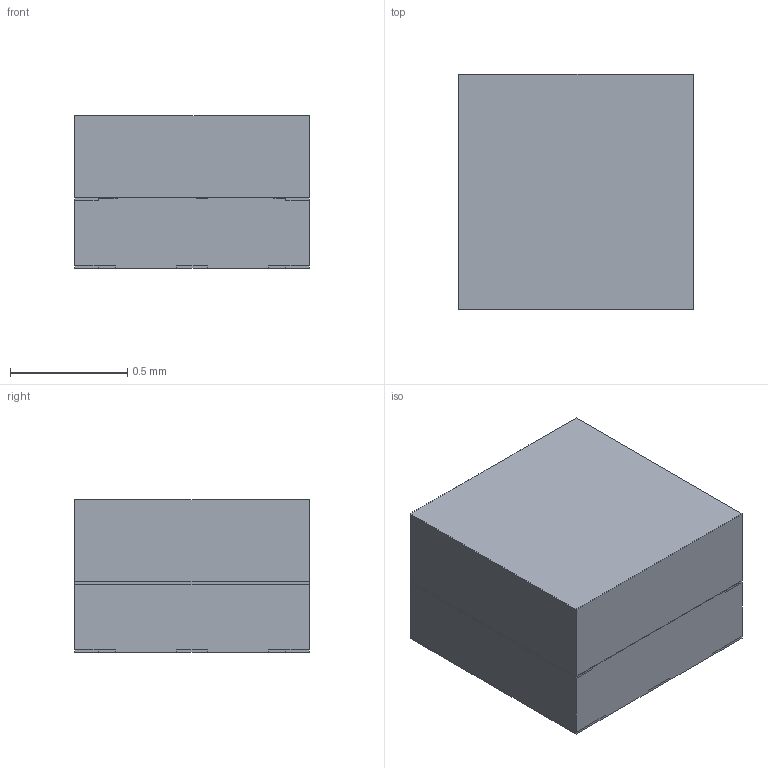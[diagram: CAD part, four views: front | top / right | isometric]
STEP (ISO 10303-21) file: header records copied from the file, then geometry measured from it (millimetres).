
FILE_DESCRIPTION(('FreeCAD Model'),'2;1');
FILE_NAME('Open CASCADE Shape Model','2026-04-02T15:24:25',('Author'),( ''),'Open CASCADE STEP processor 7.8','FreeCAD','Unknown');
FILE_SCHEMA(('AP242_MANAGED_MODEL_BASED_3D_ENGINEERING_MIM_LF. {1 0 10303 442 1 1 4 }'));
Length unit declared in the file: millimetre
Products named in the file (14): D_Wurth_WL_SFCC_0404_temp; Body_transformed; Pins_transformed; Pins001_transformed; Pins002_transformed; Pins003_transformed; Pins004_transformed; Pins005_transformed; Pins006_transformed; Pins007_transformed; Pins008_transformed; Pins009_transformed; Pins010_transformed; Resin_transformed
Assembly tree (13 placements, depth 2):
  D_Wurth_WL_SFCC_0404_temp
    Body_transformed
    Pins_transformed
    Pins001_transformed
    Pins002_transformed
    Pins003_transformed
    Pins004_transformed
    Pins005_transformed
    Pins006_transformed
    Pins007_transformed
    Pins008_transformed
    Pins009_transformed
    Pins010_transformed
    Resin_transformed
Bounding box: 1 x 1 x 0.65 mm (x, y, z)
Volume: 0.6 mm3; surface area: 8.3 mm2
Topology: 13 solids, 13 shells, 257 faces, 675 edges, 449 vertices
Faces by surface type: bspline 257
Entity records: 8482 total; most frequent: CARTESIAN_POINT 3117, ORIENTED_EDGE 1350, EDGE_CURVE 675, B_SPLINE_CURVE_WITH_KNOTS 577, VERTEX_POINT 449, FACE_BOUND 262, EDGE_LOOP 262, ADVANCED_FACE 257
